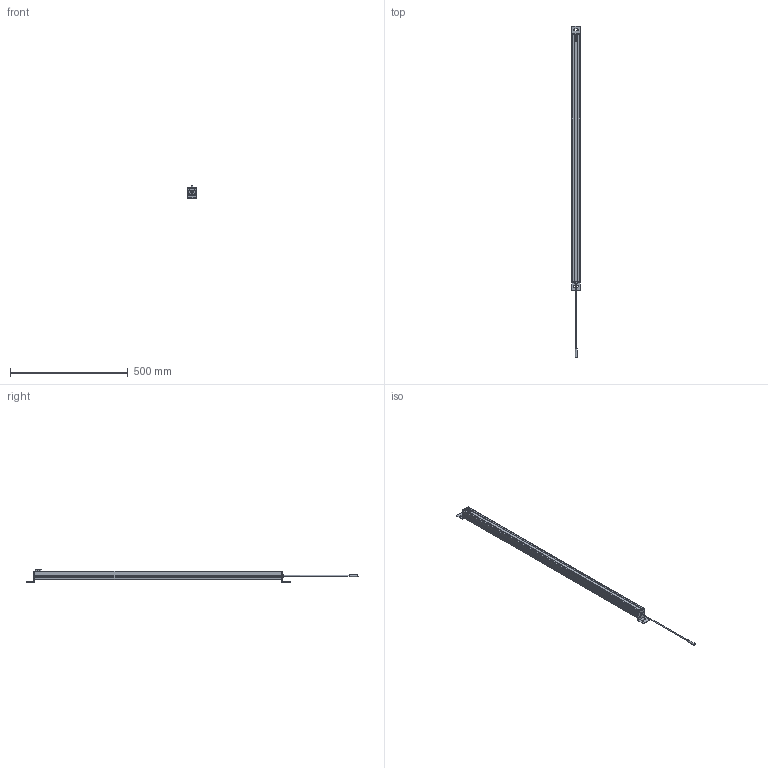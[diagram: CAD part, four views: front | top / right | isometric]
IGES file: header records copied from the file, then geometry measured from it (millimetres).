
Start section:  Autodesk DirectConnect version 7.0.27.0 ---- IGES version 5.3
Global section: file name: C:\ACADFILES\SS_PYLONS\CUSTOMER_FILES\SS-40-PYLON_3D_L.iges; native system: Autodesk DirectConnect 7.0.27.0; preprocessor: 7.0.27.0; author: ENGINEERMAIN; organization: Unknown; date: 20150810.125124; units: inch
Bounding box: 37.03 x 1409.55 x 53.51 mm (x, y, z)
Surface area: 402815.7 mm2 (no closed solid volume)
Topology: 0 solids, 0 shells, 335 faces, 1968 edges, 1995 vertices
Faces by surface type: bspline 335
